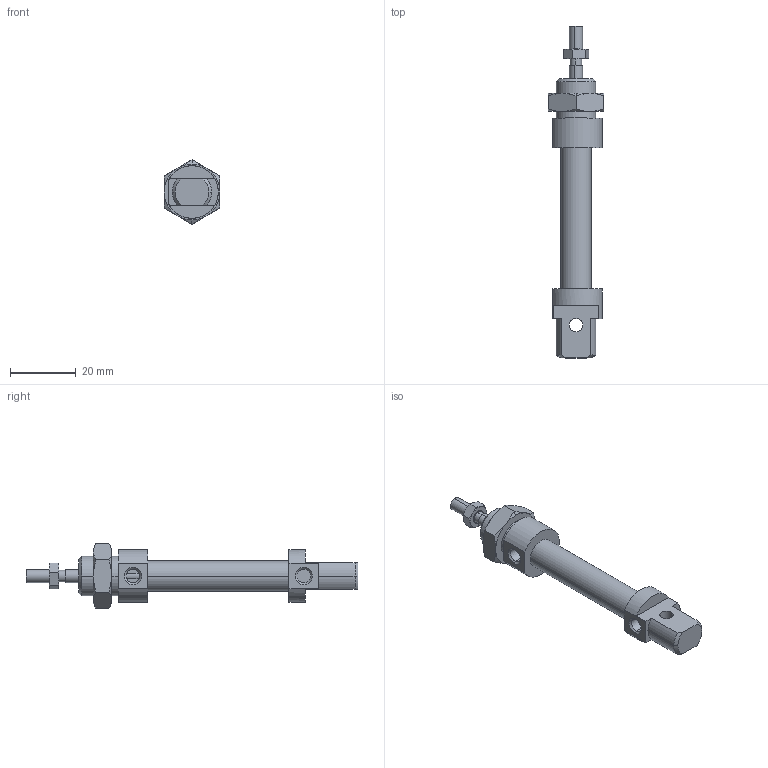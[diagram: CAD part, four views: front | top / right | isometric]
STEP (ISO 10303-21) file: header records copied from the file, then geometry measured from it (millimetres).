
FILE_DESCRIPTION((''),'2;1');
FILE_NAME('I:\DOC-EDP\Lib-3d\1200\CILINDRI\1280\1280_08_0015.stp','2003-04-07T14:04:22',('maffial1'),(''),'Autodesk Inventor (R) 6.0','Autodesk Inventor (R) 6.0','');
FILE_SCHEMA(('AUTOMOTIVE_DESIGN { 1 0 10303 214 1 1 1 1 }'));
Length unit declared in the file: millimetre
Products named in the file (5): 1280_08_0015; S1280_08_15; 1200_08_05; 1200_08_06; C1280_08_15
Assembly tree (4 placements, depth 2):
  1280_08_0015
    S1280_08_15
    1200_08_05
    1200_08_06
    C1280_08_15
Bounding box: 17 x 101 x 19.63 mm (x, y, z)
Volume: 9357.4 mm3; surface area: 5877.2 mm2
Topology: 4 solids, 4 shells, 117 faces, 261 edges, 158 vertices
Faces by surface type: cone 40, plane 34, cylinder 22, bspline 21
Entity records: 3582 total; most frequent: CARTESIAN_POINT 992, DIRECTION 531, ORIENTED_EDGE 522, EDGE_CURVE 261, AXIS2_PLACEMENT_3D 221, VERTEX_POINT 158, EDGE_LOOP 131, FACE_OUTER_BOUND 117
